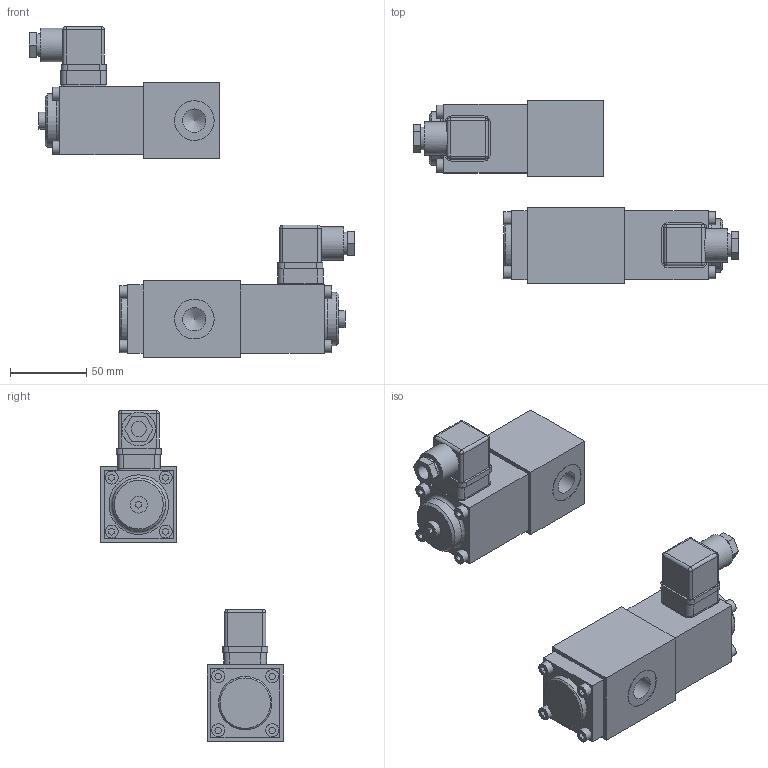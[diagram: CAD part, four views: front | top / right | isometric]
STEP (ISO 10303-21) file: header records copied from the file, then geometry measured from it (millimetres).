
FILE_DESCRIPTION(('Bauteilbeschreibung','HiCAD-Model','HiCAD-STEP-TRANSLATION','Bauteilbeschreibung'),'2;1');
FILE_NAME('C:/_EIGENE_DATEN/DXF_STEP/G_2206_4208.STP','2008-10-15T10:16:27+00:00',('Konstrukteur'),('Konstrukteur Firma GmbH'),' HiCAD neXt 2007, Step 3.1.1212.3C ','HiCAD neXt 2007','confidential');
FILE_SCHEMA(('AUTOMOTIVE_DESIGN { 1 2 10303 214 0 1 1 1 }'));
Length unit declared in the file: millimetre
Products named in the file (38): G_2206_4208; G_22061; A02116A4; AFA9CEDF; A6B41859; F134825D; CA9517B3; CA9517B30; DICHTUNG; AE4B5AD6; IN6KTM5; IN6KTM50; IN6KTM51; IN6KTM52; IN6KTM53; D82DEE49; G_22060; A9BF58E5; ABAA9BF5; A6B418590; F134825D0; CA9517B31; CA9517B32; DICHTUNG0; AE4B5AD60; D82DEE490; IN6KTM54; IN6KTM55; IN6KTM56; IN6KTM57; IN6KTM58; F77E93F1; F77E93F10; IN6KTM59; IN6KTM510; IN6KTM511; IN6KTM512; IN6KTM513
Assembly tree (37 placements, depth 6):
  G_2206_4208
    G_22061
      A02116A4
        AFA9CEDF
        A6B41859
          F134825D
          CA9517B3
          CA9517B30
            DICHTUNG
          AE4B5AD6
        IN6KTM5
          IN6KTM50
          IN6KTM51
          IN6KTM52
          IN6KTM53
        D82DEE49
    G_22060
      A9BF58E5
        ABAA9BF5
        A6B418590
          F134825D0
          CA9517B31
          CA9517B32
            DICHTUNG0
          AE4B5AD60
        D82DEE490
        IN6KTM54
          IN6KTM55
          IN6KTM56
          IN6KTM57
          IN6KTM58
        F77E93F1
        F77E93F10
          IN6KTM59
            IN6KTM510
            IN6KTM511
            IN6KTM512
            IN6KTM513
Bounding box: 213 x 119.7 x 216.5 mm (x, y, z)
Volume: 593732.8 mm3; surface area: 112869.2 mm2
Topology: 31 solids, 31 shells, 483 faces, 1085 edges, 719 vertices
Faces by surface type: plane 319, cylinder 141, cone 11, sphere 8, torus 4
Full cylindrical faces by diameter (mm): 1.5 x6, 3 x6, 4.9 x2, 5 x12, 5.5 x12, 6.5 x2, 6.8 x2, 8 x4, 8.5 x12, 9.8 x2, 10 x2, 11 x2, 13.6 x2, 15 x4, 15.25 x4, 22 x2, 26 x6, 35 x3
Entity records: 13546 total; most frequent: CARTESIAN_POINT 2389, DIRECTION 2330, ORIENTED_EDGE 1854, EDGE_CURVE 927, AXIS2_PLACEMENT_3D 848, EDGE_LOOP 682, VERTEX_POINT 673, LINE 634
